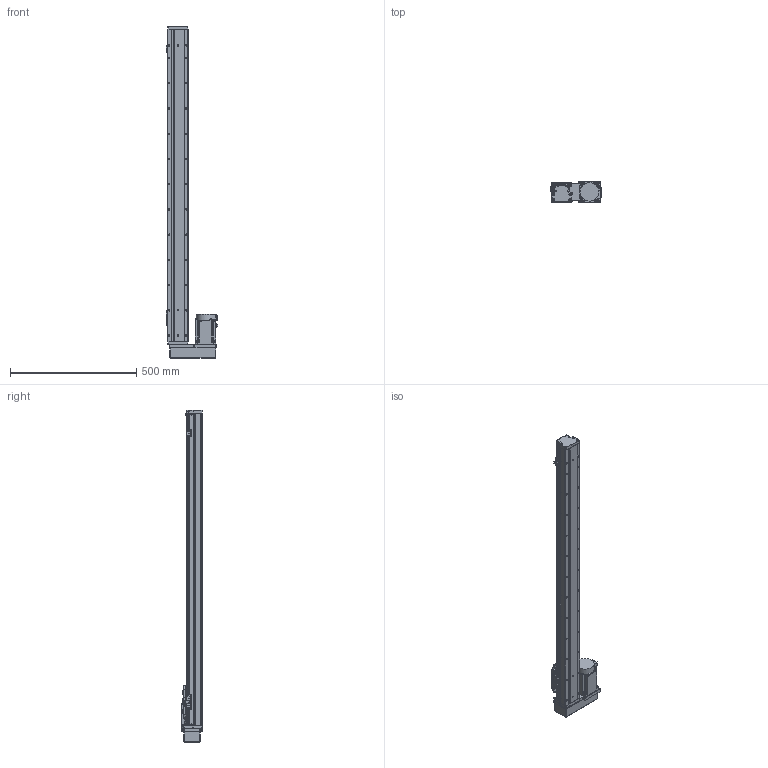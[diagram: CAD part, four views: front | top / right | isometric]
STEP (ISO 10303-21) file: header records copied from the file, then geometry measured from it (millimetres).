
FILE_DESCRIPTION (( 'STEP AP203' ), '1' );
FILE_NAME ('GTH8-1050-BR-M75-C4.step', '2023-02-14T02:32:14', ( '微软用户' ), ( '微软中国' ), 'SwSTEP 2.0', 'SolidWorks 2020', '' );
FILE_SCHEMA (( 'CONFIG_CONTROL_DESIGN' ));
Length unit declared in the file: millimetre
Products named in the file (18): GTH80-028; hg-kn73j_-s100; GTH80-013; GTH50-024; GTH8-1050-BR-M75-C4; GBT 70.3-M3℅6; GTH50-023; GTH80-022; GBT96.1-2002 3×0.8; GTH80-001_1050; BTH-M3X5X6; GTH80-003; GBT 70.1-M3℅6; CTHA86-015-3_CTHA86-015-4; GTH80-004; GBT 70.1-M4×16; CTHA86-035; GTH80-006
Assembly tree (57 placements, depth 2):
  GTH8-1050-BR-M75-C4
    GTH80-001_1050
    GTH80-003
    GTH80-004
    GTH80-006
    GTH80-013
    GBT 70.3-M3℅6  x4
    GTH80-022
    GBT 70.1-M3℅6  x14
    GBT 70.1-M4×16  x8
    GTH80-028  x2
    GTH50-024  x3
    GTH50-023  x3
    GBT96.1-2002 3×0.8  x6
    BTH-M3X5X6  x8
    CTHA86-015-3_CTHA86-015-4
    CTHA86-035
    hg-kn73j_-s100
Bounding box: 204.7 x 87 x 1316 mm (x, y, z)
Volume: 6912005.4 mm3; surface area: 656865.8 mm2
Topology: 59 solids, 59 shells, 2215 faces, 5154 edges, 3160 vertices
Faces by surface type: plane 1153, cylinder 647, cone 243, torus 158, sphere 12, bspline 2
Entity records: 40328 total; most frequent: CARTESIAN_POINT 6767, DIRECTION 6669, ORIENTED_EDGE 6118, EDGE_CURVE 3059, AXIS2_PLACEMENT_3D 2362, VECTOR 1945, LINE 1945, VERTEX_POINT 1935
